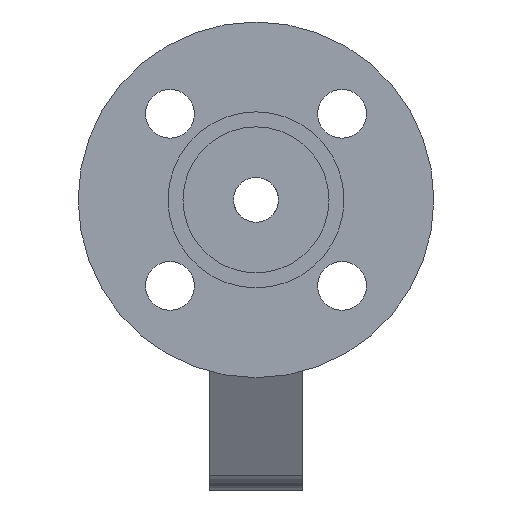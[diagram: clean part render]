
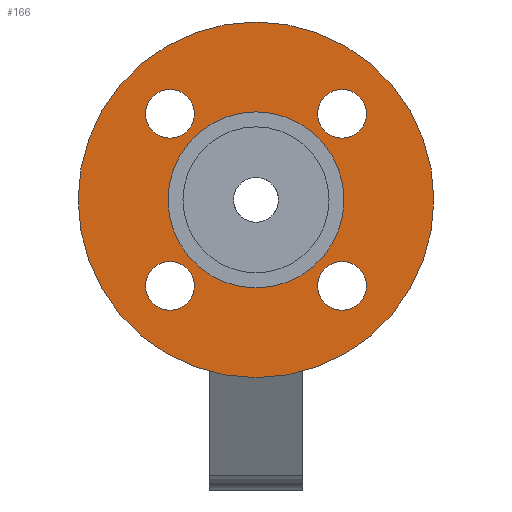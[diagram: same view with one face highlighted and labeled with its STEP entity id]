
A CAD part, left-side view. The second image highlights one B-rep face of the part: STEP entity #166.
In plain terms, the highlighted planar face has unit normal (-1, 0, 0).
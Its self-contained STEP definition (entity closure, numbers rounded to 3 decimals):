
#166=ADVANCED_FACE('',(#1323,#1325,#1327,#1329,#1331,#1333),#1335,.T.);
#1323=FACE_BOUND('',#1324,.T.);
#1324=EDGE_LOOP('',(#2224));
#1325=FACE_BOUND('',#1326,.T.);
#1326=EDGE_LOOP('',(#2225));
#1327=FACE_BOUND('',#1328,.T.);
#1328=EDGE_LOOP('',(#2226));
#1329=FACE_BOUND('',#1330,.T.);
#1330=EDGE_LOOP('',(#2227));
#1331=FACE_BOUND('',#1332,.T.);
#1332=EDGE_LOOP('',(#2228));
#1333=FACE_OUTER_BOUND('',#1334,.T.);
#1334=EDGE_LOOP('',(#2229));
#1335=PLANE('',#1336);
#1336=AXIS2_PLACEMENT_3D('',#1337,#1338,#1339);
#1337=CARTESIAN_POINT('',(-48.,0.,0.));
#1338=DIRECTION('',(-1.,0.,0.));
#1339=DIRECTION('',(0.,1.,0.));
#2224=ORIENTED_EDGE('',*,*,#3184,.T.);
#2225=ORIENTED_EDGE('',*,*,#3185,.T.);
#2226=ORIENTED_EDGE('',*,*,#3186,.T.);
#2227=ORIENTED_EDGE('',*,*,#3187,.T.);
#2228=ORIENTED_EDGE('',*,*,#3169,.T.);
#2229=ORIENTED_EDGE('',*,*,#3188,.F.);
#3169=EDGE_CURVE('',#3526,#3526,#3527,.T.);
#3184=EDGE_CURVE('',#3554,#3554,#3555,.F.);
#3185=EDGE_CURVE('',#3556,#3556,#3557,.F.);
#3186=EDGE_CURVE('',#3558,#3558,#3559,.F.);
#3187=EDGE_CURVE('',#3560,#3560,#3561,.F.);
#3188=EDGE_CURVE('',#3562,#3562,#3563,.T.);
#3526=VERTEX_POINT('',#4750);
#3527=CIRCLE('',#4751,23.5);
#3554=VERTEX_POINT('',#4814);
#3555=CIRCLE('',#4815,6.5);
#3556=VERTEX_POINT('',#4819);
#3557=CIRCLE('',#4820,6.5);
#3558=VERTEX_POINT('',#4824);
#3559=CIRCLE('',#4825,6.5);
#3560=VERTEX_POINT('',#4829);
#3561=CIRCLE('',#4830,6.5);
#3562=VERTEX_POINT('',#4834);
#3563=CIRCLE('',#4835,47.5);
#4750=CARTESIAN_POINT('',(-48.,23.5,0.));
#4751=AXIS2_PLACEMENT_3D('',#4752,#4753,#4754);
#4752=CARTESIAN_POINT('',(-48.,0.,0.));
#4753=DIRECTION('',(1.,-0.,-0.));
#4754=DIRECTION('',(0.,1.,0.));
#4814=CARTESIAN_POINT('',(-48.,29.481,-22.981));
#4815=AXIS2_PLACEMENT_3D('',#4816,#4817,#4818);
#4816=CARTESIAN_POINT('',(-48.,22.981,-22.981));
#4817=DIRECTION('',(-1.,0.,0.));
#4818=DIRECTION('',(0.,1.,0.));
#4819=CARTESIAN_POINT('',(-48.,22.981,29.481));
#4820=AXIS2_PLACEMENT_3D('',#4821,#4822,#4823);
#4821=CARTESIAN_POINT('',(-48.,22.981,22.981));
#4822=DIRECTION('',(-1.,0.,0.));
#4823=DIRECTION('',(0.,0.,1.));
#4824=CARTESIAN_POINT('',(-48.,-29.481,22.981));
#4825=AXIS2_PLACEMENT_3D('',#4826,#4827,#4828);
#4826=CARTESIAN_POINT('',(-48.,-22.981,22.981));
#4827=DIRECTION('',(-1.,0.,0.));
#4828=DIRECTION('',(0.,-1.,-0.));
#4829=CARTESIAN_POINT('',(-48.,-22.981,-29.481));
#4830=AXIS2_PLACEMENT_3D('',#4831,#4832,#4833);
#4831=CARTESIAN_POINT('',(-48.,-22.981,-22.981));
#4832=DIRECTION('',(-1.,0.,0.));
#4833=DIRECTION('',(0.,0.,-1.));
#4834=CARTESIAN_POINT('',(-48.,47.5,0.));
#4835=AXIS2_PLACEMENT_3D('',#4836,#4837,#4838);
#4836=CARTESIAN_POINT('',(-48.,0.,0.));
#4837=DIRECTION('',(1.,-0.,-0.));
#4838=DIRECTION('',(0.,1.,0.));
